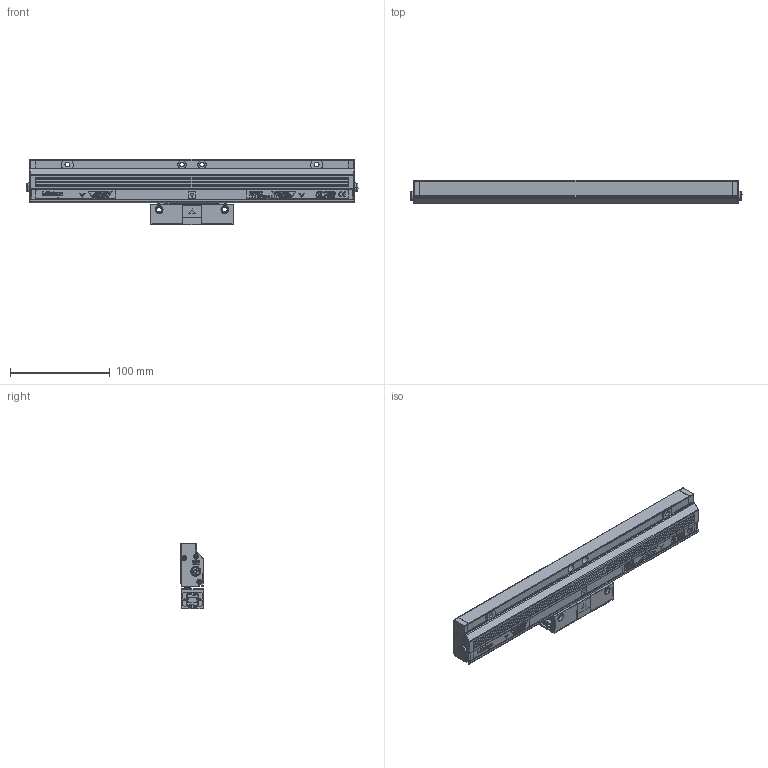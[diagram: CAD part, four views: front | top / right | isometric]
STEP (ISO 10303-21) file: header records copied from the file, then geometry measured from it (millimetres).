
FILE_DESCRIPTION(('Creo Elements/Direct Modeling STEP Export'),'2;1');
FILE_NAME('ABS AT1300-200S.stp','2018-02-23T 9:31:35',(''),(''),'Creo Elements/Direct Modeling STEP processor for AP214 (Solid Model)','Creo Elements/Direct Modeling 18.1B 29-Sep-2012 (C) Parametric Technology GmbH','');
FILE_SCHEMA(('AUTOMOTIVE_DESIGN { 1 0 10303 214 1 1 1 1 }'));
Length unit declared in the file: millimetre
Products named in the file (3): Scale_200; Detector_head; AT1300-200S
Assembly tree (2 placements, depth 2):
  AT1300-200S
    Detector_head
    Scale_200
Bounding box: 332.9 x 23 x 66 mm (x, y, z)
Volume: 309877.8 mm3; surface area: 60931.9 mm2
Topology: 2 solids, 10 shells, 1217 faces, 3638 edges, 2566 vertices
Faces by surface type: plane 649, cylinder 366, torus 68, bspline 66, cone 44, sphere 24
Entity records: 55959 total; most frequent: CARTESIAN_POINT 22800, ORIENTED_EDGE 7204, DIRECTION 6176, EDGE_CURVE 3602, VERTEX_POINT 2566, VECTOR 2248, LINE 2248, AXIS2_PLACEMENT_3D 1964
